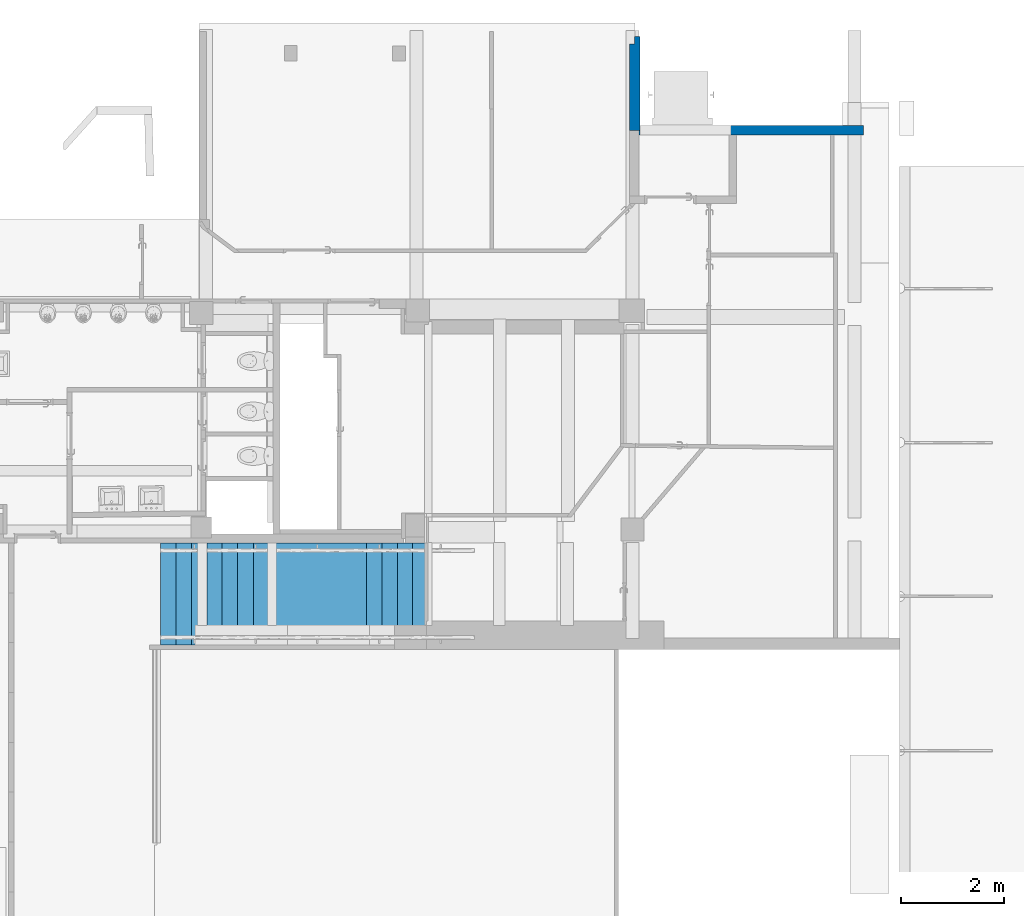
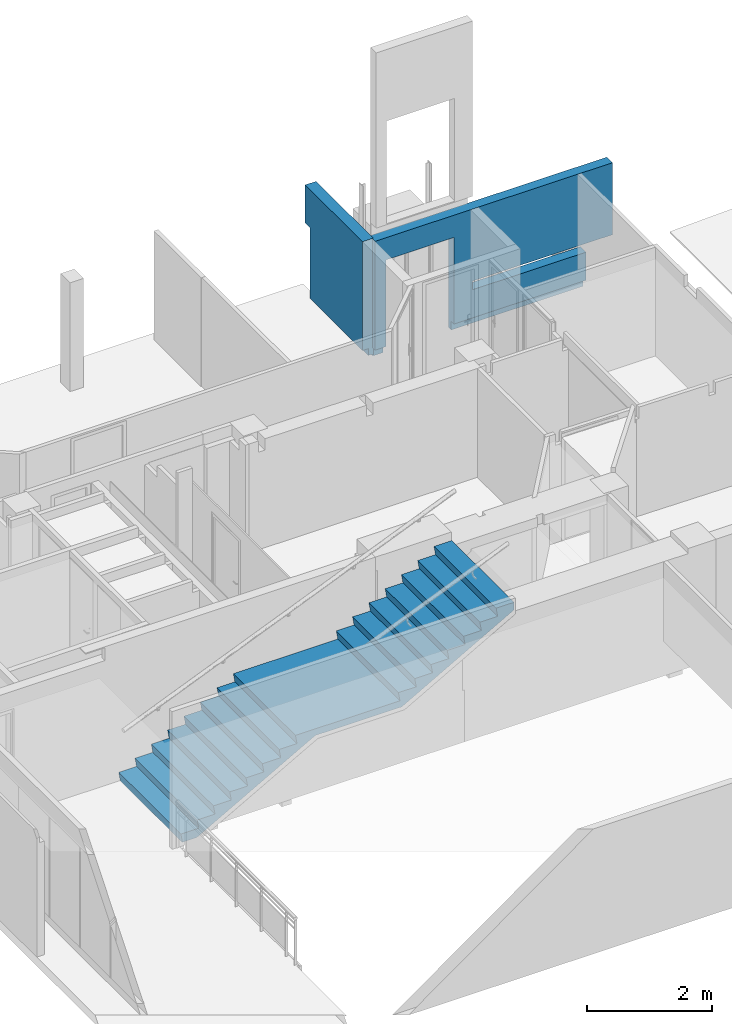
# One storey, part 24 of 32: 2 walls, 1 stair flight, 1 element without a shape of its own.
"""IFC4 building model written with IfcOpenShell, lengths in metres."""

from ifc_helpers import new_model, entity, si_unit, converted_unit, derived_unit, direction, frame, origin, place, context, subcontext, project, spatial, polygons, material, layer, layer_set, constituent, constituent_set, type_object, element, aggregate, save


model = new_model("IFC4")

# Units and contexts
model_context = context("Model", 3, precision=1e-05, world=origin(), true_north=direction((6.12303176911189e-17, 1.0)))
body_context = subcontext(model_context, "Body", "Model", "MODEL_VIEW")
ifc_project = project(units=[si_unit("LENGTHUNIT", "METRE"), si_unit("AREAUNIT", "SQUARE_METRE"), si_unit("VOLUMEUNIT", "CUBIC_METRE"), converted_unit("PLANEANGLEUNIT", "DEGREE", entity("IfcRatioMeasure", 0.0174532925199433), si_unit("PLANEANGLEUNIT", "RADIAN"), dimensions=[0, 0, 0, 0, 0, 0, 0]), si_unit("MASSUNIT", "GRAM", prefix="KILO"), derived_unit("MASSDENSITYUNIT", [(si_unit("MASSUNIT", "GRAM", prefix="KILO"), 1), (si_unit("LENGTHUNIT", "METRE"), -3)]), derived_unit("MOMENTOFINERTIAUNIT", [(si_unit("LENGTHUNIT", "METRE"), 4)]), si_unit("TIMEUNIT", "SECOND"), si_unit("FREQUENCYUNIT", "HERTZ"), si_unit("THERMODYNAMICTEMPERATUREUNIT", "DEGREE_CELSIUS"), derived_unit("THERMALTRANSMITTANCEUNIT", [(si_unit("MASSUNIT", "GRAM", prefix="KILO"), 1), (si_unit("THERMODYNAMICTEMPERATUREUNIT", "KELVIN"), -1), (si_unit("TIMEUNIT", "SECOND"), -3)]), derived_unit("VOLUMETRICFLOWRATEUNIT", [(si_unit("LENGTHUNIT", "METRE"), 3), (si_unit("TIMEUNIT", "SECOND"), -1)]), si_unit("ELECTRICCURRENTUNIT", "AMPERE"), si_unit("ELECTRICVOLTAGEUNIT", "VOLT"), si_unit("POWERUNIT", "WATT"), si_unit("FORCEUNIT", "NEWTON", prefix="KILO"), si_unit("ILLUMINANCEUNIT", "LUX"), si_unit("LUMINOUSFLUXUNIT", "LUMEN"), si_unit("LUMINOUSINTENSITYUNIT", "CANDELA"), derived_unit("USERDEFINED", [(si_unit("MASSUNIT", "GRAM", prefix="KILO"), -1), (si_unit("LENGTHUNIT", "METRE"), -2), (si_unit("TIMEUNIT", "SECOND"), 3), (si_unit("LUMINOUSFLUXUNIT", "LUMEN"), 1)]), derived_unit("LINEARVELOCITYUNIT", [(si_unit("LENGTHUNIT", "METRE"), 1), (si_unit("TIMEUNIT", "SECOND"), -1)]), si_unit("PRESSUREUNIT", "PASCAL"), derived_unit("USERDEFINED", [(si_unit("LENGTHUNIT", "METRE"), -2), (si_unit("MASSUNIT", "GRAM", prefix="KILO"), 1), (si_unit("TIMEUNIT", "SECOND"), -2)]), derived_unit("LINEARFORCEUNIT", [(si_unit("MASSUNIT", "GRAM", prefix="KILO"), 1), (si_unit("LENGTHUNIT", "METRE"), 1), (si_unit("TIMEUNIT", "SECOND"), -2), (si_unit("LENGTHUNIT", "METRE"), -1)]), derived_unit("PLANARFORCEUNIT", [(si_unit("MASSUNIT", "GRAM", prefix="KILO"), 1), (si_unit("LENGTHUNIT", "METRE"), 1), (si_unit("TIMEUNIT", "SECOND"), -2), (si_unit("LENGTHUNIT", "METRE"), -2)])], contexts=[model_context])

# Site, building, storey
site_placement = place(None, origin())
site = spatial("IfcSite", under=ifc_project, at=site_placement, Name="Default", CompositionType="ELEMENT")
building_placement = place(site_placement, origin())
building = spatial("IfcBuilding", under=site, at=building_placement, Name="HOTEL CONSULAIRE BOULOGNE SUR MER", CompositionType="ELEMENT")
storey_placement = place(building_placement, frame((0.0, 0.0, -2.70343668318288)))
storey = spatial("IfcBuildingStorey", under=building, at=storey_placement, Name="SS1", CompositionType="ELEMENT", Elevation=-2.70343668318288)

# Walls
ifc_material_1 = material(Name="Mur par défaut", Category="Divers")
ifc_layer_1 = layer(ifc_material_1, 0.18, Name="Mur par défaut", Category="Divers")
ifc_layer_set_1 = layer_set([ifc_layer_1], Name="Mur de base:Générique - Int.180")
wall_type_1 = type_object("IfcWallType", Name="Mur de base:Générique - Int.180", PredefinedType="NOTDEFINED", material=ifc_layer_set_1)
wall_1_placement = place(storey_placement, frame((11.6611975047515, -12.0607913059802, 0.143990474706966), z_axis=(0.0, 0.0, 1.0), x_axis=(-1.0, 0.0, 0.0)))
element("IfcWall", 1, at=wall_1_placement, inside=storey, type_object=wall_type_1, material=ifc_layer_set_1, Name="Mur de base:Générique - Int.180", ObjectType="Mur de base:Générique - Int.180", PredefinedType="NOTDEFINED", context=body_context, shape_type="Tessellation", body=[
    polygons([(2.91821044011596, 0.0, 0.0), (0.48555381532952, 0.0, 0.0), (0.48555381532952, 0.0, 0.17), (2.91821044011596, 0.0, 0.17), (4.35221723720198, -0.0900000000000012, 0.0), (4.17321723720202, -0.0900000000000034, 0.0), (4.17321723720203, -2.16573425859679e-15, 0.0), (4.35221723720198, 0.0, 0.0), (4.17321723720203, 0.089999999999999, 0.17), (4.37221723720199, 0.089999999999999, 0.17), (4.37221723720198, 0.0, 0.17), (4.35221723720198, 0.0, 0.17), (4.17321723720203, 0.0, 0.17), (4.35221723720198, -0.0900000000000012, 2.28944620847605), (2.57325837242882, -0.0900000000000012, 2.28944620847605), (0.530000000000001, -0.0900000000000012, 2.28944620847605), (1.30514246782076e-17, -0.0900000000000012, 2.28944620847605), (1.30514246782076e-17, -0.0900000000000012, 0.887846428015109), (0.530000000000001, -0.0900000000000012, 0.887846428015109), (2.57325837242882, -0.0900000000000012, 0.887846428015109), (2.57325837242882, -0.0900000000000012, 0.717846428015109), (2.21324170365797, -0.089999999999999, 0.717846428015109), (0.48555381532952, -0.0900000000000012, 0.717846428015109), (0.48555381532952, -0.0900000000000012, 0.0), (2.91821044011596, -0.089999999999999, 0.0), (2.91821044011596, -0.089999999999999, 1.85600952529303), (4.17321723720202, -0.0900000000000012, 1.85600952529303), (4.35221723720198, -0.0900000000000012, 0.150009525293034), (-5.40362080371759e-16, 0.089999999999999, 2.28944620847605), (0.571811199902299, 0.089999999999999, 2.28944620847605), (0.641811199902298, 0.089999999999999, 2.28944620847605), (2.46759355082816, 0.089999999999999, 2.28944620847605), (2.61759355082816, 0.089999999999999, 2.28944620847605), (4.37221723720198, 0.089999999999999, 2.28944620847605), (4.17321723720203, 0.089999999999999, 1.85600952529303), (2.91821044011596, 0.0900000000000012, 1.85600952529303), (2.91821044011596, 0.0900000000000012, 0.17), (2.61759355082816, 0.089999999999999, 0.17), (2.46759355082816, 0.089999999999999, 0.17), (0.641811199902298, 0.089999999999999, 0.17), (0.571811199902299, 0.089999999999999, 0.17), (0.48555381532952, 0.089999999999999, 0.17), (0.48555381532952, 0.089999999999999, 0.717846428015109), (2.57499055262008, 0.089999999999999, 0.717846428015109), (2.57499055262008, 0.089999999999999, 0.887846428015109), (0.410553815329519, 0.089999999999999, 0.887846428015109), (0.335553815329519, 0.089999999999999, 0.887846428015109), (-5.40362080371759e-16, 0.089999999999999, 0.887846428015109), (4.35221723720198, -0.0715972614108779, 2.28944620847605), (4.35221723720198, 0.0, 2.28944620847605), (4.37221723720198, 0.0, 2.28944620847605), (4.35221723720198, 0.0, 0.150009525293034), (4.35221723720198, 0.0, 0.00600952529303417)], [[[3, 4, 1, 2]], [[35, 36, 37, 38, 39, 40, 41, 42, 43, 44, 45, 46, 47, 48, 29, 30, 31, 32, 33, 34, 10, 9]], [[53, 8, 7, 13, 12, 52]], [[5, 6, 7, 8]], [[12, 13, 9, 10, 11]], [[25, 24, 2, 1]], [[26, 36, 35, 27]], [[3, 42, 41, 40, 39, 38, 37, 4]], [[20, 19, 18, 48, 47, 46, 45]], [[22, 23, 24, 25, 26, 27, 6, 5, 28, 14, 15, 16, 17, 18, 19, 20, 21]], [[50, 12, 11, 51]], [[33, 32, 31, 30, 29, 17, 16, 15, 14, 49, 50, 51, 34]], [[22, 21, 44, 43, 23]], [[4, 37, 36, 26, 25, 1]], [[28, 5, 8, 53, 52, 12, 50, 49, 14]], [[51, 11, 10, 34]], [[9, 13, 7, 6, 27, 35]], [[3, 2, 24, 23, 43, 42]], [[29, 48, 18, 17]], [[20, 45, 44, 21]]], closed=True),
])
ifc_layer_2 = layer(ifc_material_1, 0.2, Name="Mur par défaut", Category="Divers")
ifc_layer_set_2 = layer_set([ifc_layer_2], Name="Mur de base:Générique - Int.200")
wall_type_2 = type_object("IfcWallType", Name="Mur de base:Générique - Int.200", PredefinedType="NOTDEFINED", material=ifc_layer_set_2)
wall_2_placement = place(storey_placement, frame((7.20898026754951, -10.23432416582, 0.15), z_axis=(0.0, 0.0, 1.0), x_axis=(0.0, -1.0, 0.0)))
element("IfcWall", 2, at=wall_2_placement, inside=storey, type_object=wall_type_2, material=ifc_layer_set_2, Name="Mur de base:Générique - Int.200", ObjectType="Mur de base:Générique - Int.200", PredefinedType="NOTDEFINED", context=body_context, shape_type="Tessellation", body=[
    polygons([(1.82646714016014, -0.100000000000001, 2.28343668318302), (0.0, -0.1, 2.28343668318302), (0.0, -0.1, 1.54323690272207), (0.150000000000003, -0.1, 1.54323690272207), (0.150000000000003, -0.1, 0.163990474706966), (1.82646714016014, -0.100000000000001, 0.163990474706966), (-2.16573425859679e-15, 0.0999999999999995, 2.28343668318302), (1.73646714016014, 0.0999999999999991, 2.28343668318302), (1.75486987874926, 0.0999999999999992, 2.28343668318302), (1.82646714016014, 0.0999999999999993, 2.28343668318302), (1.82646714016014, 0.0999999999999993, 0.163990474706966), (1.82646714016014, 0.0999999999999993, 0.144), (1.82646714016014, 0.0999999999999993, 0.0), (-2.16573425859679e-15, 0.0999999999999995, 0.0), (1.82646714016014, 0.0814576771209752, 0.0), (-2.16573425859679e-15, 0.0814576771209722, 0.0), (-2.16573425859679e-15, 0.0814576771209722, 0.0299999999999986), (0.0, 0.00999999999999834, 0.0299999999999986), (0.0, 0.00999999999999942, 0.163990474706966), (0.0, -4.6870424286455e-16, 0.163990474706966), (0.0, -4.6870424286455e-16, 1.34699999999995), (0.0, -4.6870424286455e-16, 1.54323690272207), (1.82646714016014, 0.0800000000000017, 2.28343668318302), (1.82646714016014, 0.00999999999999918, 0.163990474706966), (0.150000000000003, -2.21636099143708e-16, 0.163990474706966), (1.82646714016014, 0.00999999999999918, 0.0299999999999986), (1.82646714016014, 0.0814576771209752, 0.0299999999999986), (0.150000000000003, -2.21636099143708e-16, 1.54323690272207)], [[[4, 5, 6, 1, 2, 3]], [[19, 18, 26, 24]], [[15, 27, 17, 16]], [[21, 20, 25, 28, 22]], [[11, 12, 13, 14, 7, 8, 9, 10]], [[15, 16, 14, 13]], [[25, 20, 19, 24, 6, 5]], [[26, 18, 17, 27]], [[3, 22, 28, 4]], [[3, 2, 7, 14, 16, 17, 18, 19, 20, 21, 22]], [[25, 5, 4, 28]], [[9, 8, 7, 2, 1, 23, 10]], [[1, 6, 24, 26, 27, 15, 13, 12, 11, 10, 23]]], closed=True),
])

# Stair, stair flight
stair_type = type_object("IfcStairType", Name="Escalier coulé sur place:Monobloc 4", PredefinedType="STRAIGHT_RUN_STAIR")
stair_placement = place(storey_placement, origin())
stair = element("IfcStair", 3, at=stair_placement, inside=storey, type_object=stair_type, Name="Escalier coulé sur place:Escalier", ObjectType="Escalier coulé sur place:Monobloc 4", PredefinedType="STRAIGHT_RUN_STAIR")
ifc_material_2 = material(Name="carrelage 30x30")
ifc_constituent_1 = constituent(ifc_material_2, Name="carrelage 30x30", Category="Matériaux")
ifc_material_3 = material(Name="Maçonnerie - Béton", Category="Béton")
ifc_constituent_2 = constituent(ifc_material_3, Name="Maçonnerie - Béton", Category="Matériaux")
ifc_constituent_set = constituent_set(constituents=[ifc_constituent_1, ifc_constituent_2], Name="MaterialConstituentSet")
stair_flight_type = type_object("IfcStairFlightType", Name="Volée monobloc:Profondeur de structure 120 mm 2", PredefinedType="NOTDEFINED")
stair_flight_placement = place(stair_placement, frame((-2.01949679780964, -22.0792190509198, 0.0)))
stair_flight = element("IfcStairFlight", 4, at=stair_flight_placement, type_object=stair_flight_type, material=ifc_constituent_set, Name="Escalier coulé sur place:Escalier:400493 Run 1", ObjectType="Volée monobloc:Profondeur de structure 120 mm 2", PredefinedType="NOTDEFINED", context=body_context, shape_type="Tessellation", body=[
    polygons([(3.24860138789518e-15, 1.98430469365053, 0.168964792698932), (5.41433564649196e-16, 3.0320279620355e-14, 0.168964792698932), (0.329972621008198, 3.0320279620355e-14, 0.168964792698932), (0.329972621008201, 1.98430469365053, 0.168964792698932), (0.0300000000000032, 1.98430469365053, 0.158964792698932), (0.329972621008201, 1.98430469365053, 0.158964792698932), (0.329972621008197, 3.0320279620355e-14, 0.158964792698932), (0.0300000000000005, 3.0320279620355e-14, 0.158964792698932), (0.0300000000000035, 1.98430469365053, -0.0120352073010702), (0.0300000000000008, 3.0320279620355e-14, -0.0120352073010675)], [[[3, 4, 1, 2]], [[8, 5, 6, 7]], [[1, 4, 6, 5, 9]], [[3, 2, 10, 8, 7]], [[4, 3, 7, 6]], [[8, 10, 9, 5]], [[10, 2, 1, 9]]], closed=True),
    polygons([(0.2999726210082, 1.98430469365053, 0.337929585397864), (0.299972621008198, 3.46517481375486e-14, 0.337929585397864), (0.629972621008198, 2.59888111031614e-14, 0.337929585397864), (0.629972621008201, 1.98430469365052, 0.337929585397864), (0.329972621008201, 1.98430469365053, 0.327929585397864), (0.629972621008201, 1.98430469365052, 0.327929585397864), (0.629972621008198, 2.59888111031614e-14, 0.327929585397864), (0.329972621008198, 3.0320279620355e-14, 0.327929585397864), (0.329972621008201, 1.98430469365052, 0.156929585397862), (0.329972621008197, 3.0320279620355e-14, 0.156929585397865)], [[[3, 4, 1, 2]], [[8, 5, 6, 7]], [[1, 4, 6, 5, 9]], [[3, 2, 10, 8, 7]], [[4, 3, 7, 6]], [[8, 10, 9, 5]], [[10, 2, 1, 9]]], closed=True),
    polygons([(0.5999726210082, 1.98430469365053, 0.506894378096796), (0.599972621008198, 3.46517481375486e-14, 0.506894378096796), (0.929972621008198, 2.59888111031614e-14, 0.506894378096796), (0.929972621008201, 1.98430469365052, 0.506894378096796), (0.629972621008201, 1.98430469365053, 0.496894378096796), (0.929972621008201, 1.98430469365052, 0.496894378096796), (0.929972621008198, 2.59888111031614e-14, 0.496894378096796), (0.629972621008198, 3.0320279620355e-14, 0.496894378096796), (0.629972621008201, 1.98430469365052, 0.325894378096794), (0.629972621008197, 3.0320279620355e-14, 0.325894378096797)], [[[3, 4, 1, 2]], [[8, 5, 6, 7]], [[1, 4, 6, 5, 9]], [[3, 2, 10, 8, 7]], [[4, 3, 7, 6]], [[8, 10, 9, 5]], [[10, 2, 1, 9]]], closed=True),
    polygons([(0.899972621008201, 1.98430469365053, 0.675859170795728), (0.899972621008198, 3.46517481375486e-14, 0.675859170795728), (1.2299726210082, 2.59888111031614e-14, 0.675859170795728), (1.2299726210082, 1.98430469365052, 0.675859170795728), (0.929972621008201, 1.98430469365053, 0.665859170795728), (1.2299726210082, 1.98430469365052, 0.665859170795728), (1.2299726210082, 2.59888111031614e-14, 0.665859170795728), (0.929972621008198, 3.0320279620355e-14, 0.665859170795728), (0.929972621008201, 1.98430469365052, 0.494859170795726), (0.929972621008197, 3.0320279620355e-14, 0.494859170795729)], [[[3, 4, 1, 2]], [[8, 5, 6, 7]], [[1, 4, 6, 5, 9]], [[3, 2, 10, 8, 7]], [[4, 3, 7, 6]], [[8, 10, 9, 5]], [[10, 2, 1, 9]]], closed=True),
    polygons([(1.1999726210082, 1.98430469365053, 0.84482396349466), (1.1999726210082, 3.0320279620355e-14, 0.84482396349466), (1.5299726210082, 2.16573425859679e-14, 0.84482396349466), (1.5299726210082, 1.98430469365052, 0.84482396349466), (1.2299726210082, 1.98430469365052, 0.83482396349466), (1.5299726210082, 1.98430469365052, 0.83482396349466), (1.5299726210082, 2.16573425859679e-14, 0.83482396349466), (1.2299726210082, 2.59888111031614e-14, 0.83482396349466), (1.2299726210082, 1.98430469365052, 0.663823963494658), (1.2299726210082, 2.59888111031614e-14, 0.663823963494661)], [[[3, 4, 1, 2]], [[8, 5, 6, 7]], [[1, 4, 6, 5, 9]], [[3, 2, 10, 8, 7]], [[4, 3, 7, 6]], [[8, 10, 9, 5]], [[10, 2, 1, 9]]], closed=True),
    polygons([(1.4999726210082, 1.98430469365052, 1.01378875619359), (1.4999726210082, 2.59888111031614e-14, 1.01378875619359), (1.840513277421, 2.16573425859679e-14, 1.01378875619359), (1.840513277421, 1.98430469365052, 1.01378875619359), (1.5299726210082, 1.98430469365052, 1.00378875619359), (1.840513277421, 1.98430469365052, 1.00378875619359), (1.840513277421, 2.16573425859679e-14, 1.00378875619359), (1.5299726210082, 2.59888111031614e-14, 1.00378875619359), (1.5299726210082, 1.98430469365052, 0.83278875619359), (1.5299726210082, 2.59888111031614e-14, 0.832788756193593)], [[[3, 4, 1, 2]], [[8, 5, 6, 7]], [[1, 4, 6, 5, 9]], [[3, 2, 10, 8, 7]], [[4, 3, 7, 6]], [[8, 10, 9, 5]], [[10, 2, 1, 9]]], closed=True),
    polygons([(1.810513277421, 1.98430469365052, 1.18275354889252), (1.810513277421, 2.59888111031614e-14, 1.18275354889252), (2.140513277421, 2.16573425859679e-14, 1.18275354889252), (2.140513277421, 1.98430469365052, 1.18275354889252), (1.840513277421, 1.98430469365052, 1.17275354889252), (2.140513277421, 1.98430469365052, 1.17275354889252), (2.140513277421, 2.16573425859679e-14, 1.17275354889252), (1.840513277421, 2.16573425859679e-14, 1.17275354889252), (1.840513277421, 1.98430469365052, 1.00175354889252), (1.840513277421, 2.16573425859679e-14, 1.00175354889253)], [[[3, 4, 1, 2]], [[8, 5, 6, 7]], [[1, 4, 6, 5, 9]], [[3, 2, 10, 8, 7]], [[4, 3, 7, 6]], [[8, 10, 9, 5]], [[10, 2, 1, 9]]], closed=True),
    polygons([(2.110513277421, 1.98430469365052, 1.35171834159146), (2.110513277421, 2.16573425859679e-14, 1.35171834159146), (4.03691142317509, 1.73258740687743e-14, 1.35171834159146), (4.03691142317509, 1.98430469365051, 1.35171834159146), (2.140513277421, 1.98430469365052, 1.34171834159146), (4.03691142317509, 1.98430469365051, 1.34171834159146), (4.03691142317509, 1.73258740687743e-14, 1.34171834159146), (2.140513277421, 2.16573425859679e-14, 1.34171834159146), (2.140513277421, 1.98430469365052, 1.17071834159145), (2.140513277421, 2.16573425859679e-14, 1.17071834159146)], [[[3, 4, 1, 2]], [[8, 5, 6, 7]], [[1, 4, 6, 5, 9]], [[3, 2, 10, 8, 7]], [[4, 3, 7, 6]], [[8, 10, 9, 5]], [[10, 2, 1, 9]]], closed=True),
    polygons([(4.00691142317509, 1.98430469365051, 1.52068313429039), (4.00691142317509, 2.16573425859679e-14, 1.52068313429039), (4.33691142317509, 1.29944055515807e-14, 1.52068313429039), (4.33691142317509, 1.9843046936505, 1.52068313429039), (4.03691142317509, 1.98430469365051, 1.51068313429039), (4.33691142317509, 1.9843046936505, 1.51068313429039), (4.33691142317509, 1.29944055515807e-14, 1.51068313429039), (4.03691142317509, 1.73258740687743e-14, 1.51068313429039), (4.03691142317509, 1.9843046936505, 1.33968313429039), (4.03691142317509, 1.73258740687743e-14, 1.33968313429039)], [[[3, 4, 1, 2]], [[8, 5, 6, 7]], [[1, 4, 6, 5, 9]], [[3, 2, 10, 8, 7]], [[4, 3, 7, 6]], [[8, 10, 9, 5]], [[10, 2, 1, 9]]], closed=True),
    polygons([(4.30691142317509, 1.98430469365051, 1.68964792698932), (4.30691142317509, 2.16573425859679e-14, 1.68964792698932), (4.63691142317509, 1.29944055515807e-14, 1.68964792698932), (4.63691142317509, 1.9843046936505, 1.68964792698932), (4.33691142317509, 1.98430469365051, 1.67964792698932), (4.63691142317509, 1.9843046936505, 1.67964792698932), (4.63691142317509, 1.29944055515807e-14, 1.67964792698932), (4.33691142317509, 1.73258740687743e-14, 1.67964792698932), (4.33691142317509, 1.9843046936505, 1.50864792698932), (4.33691142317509, 1.73258740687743e-14, 1.50864792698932)], [[[3, 4, 1, 2]], [[8, 5, 6, 7]], [[1, 4, 6, 5, 9]], [[3, 2, 10, 8, 7]], [[4, 3, 7, 6]], [[8, 10, 9, 5]], [[10, 2, 1, 9]]], closed=True),
    polygons([(4.60691142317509, 1.98430469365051, 1.85861271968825), (4.60691142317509, 1.73258740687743e-14, 1.85861271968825), (4.93691142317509, 8.66293703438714e-15, 1.85861271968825), (4.93691142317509, 1.9843046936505, 1.85861271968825), (4.63691142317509, 1.9843046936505, 1.84861271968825), (4.93691142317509, 1.9843046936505, 1.84861271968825), (4.93691142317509, 8.66293703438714e-15, 1.84861271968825), (4.63691142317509, 1.29944055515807e-14, 1.84861271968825), (4.63691142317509, 1.9843046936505, 1.67761271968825), (4.63691142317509, 1.29944055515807e-14, 1.67761271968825)], [[[3, 4, 1, 2]], [[8, 5, 6, 7]], [[1, 4, 6, 5, 9]], [[3, 2, 10, 8, 7]], [[4, 3, 7, 6]], [[8, 10, 9, 5]], [[10, 2, 1, 9]]], closed=True),
    polygons([(4.90691142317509, 1.98430469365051, 2.02757751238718), (4.90691142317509, 1.73258740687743e-14, 2.02757751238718), (5.23691142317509, 8.66293703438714e-15, 2.02757751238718), (5.23691142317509, 1.9843046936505, 2.02757751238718), (4.93691142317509, 1.9843046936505, 2.01757751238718), (5.23691142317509, 1.9843046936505, 2.01757751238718), (5.23691142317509, 8.66293703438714e-15, 2.01757751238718), (4.93691142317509, 1.29944055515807e-14, 2.01757751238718), (4.93691142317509, 1.9843046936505, 1.84657751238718), (4.93691142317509, 1.29944055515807e-14, 1.84657751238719)], [[[3, 4, 1, 2]], [[8, 5, 6, 7]], [[1, 4, 6, 5, 9]], [[3, 2, 10, 8, 7]], [[4, 3, 7, 6]], [[8, 10, 9, 5]], [[10, 2, 1, 9]]], closed=True),
    polygons([(5.20691142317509, 1.98430469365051, 2.19654230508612), (5.20691142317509, 1.73258740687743e-14, 2.19654230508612), (5.53691142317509, 8.66293703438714e-15, 2.19654230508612), (5.53691142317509, 1.9843046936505, 2.19654230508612), (5.23691142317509, 1.9843046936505, 2.18654230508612), (5.53691142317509, 1.9843046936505, 2.18654230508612), (5.53691142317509, 8.66293703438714e-15, 2.18654230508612), (5.23691142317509, 1.29944055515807e-14, 2.18654230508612), (5.23691142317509, 1.9843046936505, 2.01554230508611), (5.23691142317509, 1.29944055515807e-14, 2.01554230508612)], [[[3, 4, 1, 2]], [[8, 5, 6, 7]], [[1, 4, 6, 5, 9]], [[3, 2, 10, 8, 7]], [[4, 3, 7, 6]], [[8, 10, 9, 5]], [[10, 2, 1, 9]]], closed=True),
    polygons([(5.50691142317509, 1.9843046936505, 2.36550709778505), (5.50691142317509, 1.29944055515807e-14, 2.36550709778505), (5.83691142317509, 4.33146851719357e-15, 2.36550709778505), (5.83691142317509, 1.98430469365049, 2.36550709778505), (5.53691142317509, 1.9843046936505, 2.35550709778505), (5.83691142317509, 1.98430469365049, 2.35550709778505), (5.83691142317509, 4.33146851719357e-15, 2.35550709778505), (5.53691142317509, 8.66293703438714e-15, 2.35550709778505), (5.53691142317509, 1.98430469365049, 2.18450709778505), (5.53691142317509, 8.66293703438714e-15, 2.18450709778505)], [[[3, 4, 1, 2]], [[8, 5, 6, 7]], [[1, 4, 6, 5, 9]], [[3, 2, 10, 8, 7]], [[4, 3, 7, 6]], [[8, 10, 9, 5]], [[10, 2, 1, 9]]], closed=True),
    polygons([(5.80691142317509, 1.9843046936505, 2.53447189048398), (5.80691142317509, 1.29944055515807e-14, 2.53447189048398), (6.13691142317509, 4.33146851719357e-15, 2.53447189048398), (6.13691142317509, 1.98430469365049, 2.53447189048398), (5.83691142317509, 1.9843046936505, 2.52447189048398), (6.13691142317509, 1.98430469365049, 2.52447189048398), (6.13691142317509, 4.33146851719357e-15, 2.52447189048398), (5.83691142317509, 8.66293703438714e-15, 2.52447189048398), (5.83691142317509, 1.98430469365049, 2.35347189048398), (5.83691142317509, 8.66293703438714e-15, 2.35347189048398)], [[[3, 4, 1, 2]], [[8, 5, 6, 7]], [[1, 4, 6, 5, 9]], [[3, 2, 10, 8, 7]], [[4, 3, 7, 6]], [[8, 10, 9, 5]], [[10, 2, 1, 9]]], closed=True),
    polygons([(0.329972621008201, 1.98430469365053, 0.158964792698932), (0.0300000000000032, 1.98430469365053, 0.158964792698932), (0.0300000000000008, 3.0320279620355e-14, 0.158964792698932), (0.329972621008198, 3.0320279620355e-14, 0.158964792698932), (0.329972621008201, 1.98430469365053, 0.0205488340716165), (0.293305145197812, 1.98430469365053, 0.0), (0.0300000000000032, 1.98430469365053, 0.0), (0.0300000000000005, 3.0320279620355e-14, 0.0), (0.293305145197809, 3.0320279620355e-14, -5.41433564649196e-16), (0.329972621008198, 3.0320279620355e-14, 0.0205488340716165), (0.629972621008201, 1.98430469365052, 0.327929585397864), (0.329972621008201, 1.98430469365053, 0.327929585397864), (0.329972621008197, 3.0320279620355e-14, 0.327929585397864), (0.629972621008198, 2.59888111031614e-14, 0.327929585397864), (0.629972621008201, 1.98430469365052, 0.188671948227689), (0.629972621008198, 3.0320279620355e-14, 0.188671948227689), (0.929972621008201, 1.98430469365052, 0.496894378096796), (0.629972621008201, 1.98430469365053, 0.496894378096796), (0.629972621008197, 3.0320279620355e-14, 0.496894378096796), (0.929972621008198, 2.59888111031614e-14, 0.496894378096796), (0.929972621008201, 1.98430469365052, 0.356795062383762), (0.929972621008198, 3.0320279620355e-14, 0.356795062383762), (1.2299726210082, 1.98430469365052, 0.665859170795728), (0.929972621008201, 1.98430469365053, 0.665859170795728), (0.929972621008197, 3.0320279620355e-14, 0.665859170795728), (1.2299726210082, 2.59888111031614e-14, 0.665859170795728), (1.2299726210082, 1.98430469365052, 0.524918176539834), (1.2299726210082, 3.0320279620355e-14, 0.524918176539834), (1.5299726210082, 1.98430469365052, 0.83482396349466), (1.2299726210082, 1.98430469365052, 0.83482396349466), (1.2299726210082, 2.59888111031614e-14, 0.83482396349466), (1.5299726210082, 2.16573425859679e-14, 0.83482396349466), (1.5299726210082, 1.98430469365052, 0.693041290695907), (1.5299726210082, 2.59888111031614e-14, 0.693041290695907), (1.840513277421, 1.98430469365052, 1.00378875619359), (1.5299726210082, 1.98430469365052, 1.00378875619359), (1.5299726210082, 2.59888111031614e-14, 1.00378875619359), (1.840513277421, 2.16573425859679e-14, 1.00378875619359), (1.840513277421, 1.98430469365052, 0.86707149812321), (1.840513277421, 2.59888111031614e-14, 0.86707149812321), (2.140513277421, 1.98430469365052, 1.17275354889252), (1.840513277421, 1.98430469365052, 1.17275354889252), (1.840513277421, 2.16573425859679e-14, 1.17275354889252), (2.140513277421, 2.16573425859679e-14, 1.17275354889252), (2.140513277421, 1.98430469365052, 1.03519461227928), (2.140513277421, 2.16573425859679e-14, 1.03519461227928), (2.140513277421, 1.98430469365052, 1.34171834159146), (2.140513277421, 2.16573425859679e-14, 1.34171834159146), (2.47334745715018, 2.16573425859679e-14, 1.34171834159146), (4.03691142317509, 1.73258740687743e-14, 1.34171834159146), (4.03691142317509, 1.98430469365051, 1.34171834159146), (2.47334745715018, 1.98430469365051, 1.34171834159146), (4.03691142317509, 1.98430469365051, 1.22171834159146), (2.47334745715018, 1.98430469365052, 1.22171834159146), (2.47334745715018, 2.16573425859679e-14, 1.22171834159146), (4.03691142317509, 1.73258740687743e-14, 1.22171834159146), (4.03691142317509, 1.98430469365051, 1.51068313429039), (4.03691142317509, 1.73258740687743e-14, 1.51068313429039), (4.06838041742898, 1.73258740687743e-14, 1.51068313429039), (4.33691142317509, 1.29944055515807e-14, 1.51068313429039), (4.33691142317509, 1.9843046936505, 1.51068313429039), (4.06838041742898, 1.9843046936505, 1.51068313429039), (4.33691142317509, 1.9843046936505, 1.37295929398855), (4.06838041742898, 1.9843046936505, 1.22171834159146), (4.06838041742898, 1.73258740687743e-14, 1.22171834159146), (4.33691142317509, 1.73258740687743e-14, 1.37295929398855), (4.63691142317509, 1.9843046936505, 1.67964792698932), (4.33691142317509, 1.98430469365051, 1.67964792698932), (4.33691142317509, 1.73258740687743e-14, 1.67964792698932), (4.63691142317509, 1.29944055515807e-14, 1.67964792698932), (4.63691142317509, 1.9843046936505, 1.54192408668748), (4.63691142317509, 1.73258740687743e-14, 1.54192408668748), (4.93691142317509, 1.9843046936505, 1.84861271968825), (4.63691142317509, 1.9843046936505, 1.84861271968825), (4.63691142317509, 1.29944055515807e-14, 1.84861271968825), (4.93691142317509, 8.66293703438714e-15, 1.84861271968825), (4.93691142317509, 1.9843046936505, 1.71088887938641), (4.93691142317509, 1.29944055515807e-14, 1.71088887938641), (5.23691142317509, 1.9843046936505, 2.01757751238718), (4.93691142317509, 1.9843046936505, 2.01757751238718), (4.93691142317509, 1.29944055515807e-14, 2.01757751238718), (5.23691142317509, 8.66293703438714e-15, 2.01757751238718), (5.23691142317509, 1.9843046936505, 1.87985367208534), (5.23691142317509, 1.29944055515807e-14, 1.87985367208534), (5.53691142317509, 1.9843046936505, 2.18654230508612), (5.23691142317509, 1.9843046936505, 2.18654230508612), (5.23691142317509, 1.29944055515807e-14, 2.18654230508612), (5.53691142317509, 8.66293703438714e-15, 2.18654230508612), (5.53691142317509, 1.9843046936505, 2.04881846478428), (5.53691142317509, 1.29944055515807e-14, 2.04881846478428), (5.83691142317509, 1.98430469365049, 2.35550709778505), (5.53691142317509, 1.9843046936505, 2.35550709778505), (5.53691142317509, 8.66293703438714e-15, 2.35550709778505), (5.83691142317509, 4.33146851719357e-15, 2.35550709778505), (5.83691142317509, 1.98430469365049, 2.21778325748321), (5.83691142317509, 8.66293703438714e-15, 2.21778325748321), (6.13691142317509, 1.98430469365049, 2.52447189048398), (5.83691142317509, 1.9843046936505, 2.52447189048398), (5.83691142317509, 8.66293703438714e-15, 2.52447189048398), (6.13691142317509, 4.33146851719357e-15, 2.52447189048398), (6.13691142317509, 1.98430469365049, 2.38674805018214), (6.13691142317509, 8.66293703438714e-15, 2.38674805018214)], [[[4, 1, 2, 3]], [[14, 11, 12, 13]], [[20, 17, 18, 19]], [[26, 23, 24, 25]], [[32, 29, 30, 31]], [[38, 35, 36, 37]], [[44, 41, 42, 43]], [[50, 51, 52, 47, 48, 49]], [[60, 61, 62, 57, 58, 59]], [[70, 67, 68, 69]], [[76, 73, 74, 75]], [[82, 79, 80, 81]], [[88, 85, 86, 87]], [[94, 91, 92, 93]], [[100, 97, 98, 99]], [[2, 1, 12, 11, 18, 17, 24, 23, 30, 29, 36, 35, 42, 41, 47, 52, 51, 57, 62, 61, 68, 67, 74, 73, 80, 79, 86, 85, 92, 91, 98, 97, 101, 95, 89, 83, 77, 71, 63, 64, 53, 54, 45, 39, 33, 27, 21, 15, 5, 6, 7]], [[3, 2, 7, 8]], [[13, 12, 1, 4]], [[19, 18, 11, 14]], [[25, 24, 17, 20]], [[31, 30, 23, 26]], [[37, 36, 29, 32]], [[43, 42, 35, 38]], [[48, 47, 41, 44]], [[58, 57, 51, 50]], [[69, 68, 61, 60]], [[75, 74, 67, 70]], [[81, 80, 73, 76]], [[87, 86, 79, 82]], [[93, 92, 85, 88]], [[99, 98, 91, 94]], [[4, 3, 8, 9, 10, 16, 22, 28, 34, 40, 46, 55, 56, 65, 66, 72, 78, 84, 90, 96, 102, 100, 99, 94, 93, 88, 87, 82, 81, 76, 75, 70, 69, 60, 59, 58, 50, 49, 48, 44, 43, 38, 37, 32, 31, 26, 25, 20, 19, 14, 13]], [[97, 100, 102, 101]], [[8, 7, 6, 9]], [[55, 54, 53, 64, 65, 56]], [[10, 9, 6, 5, 15, 21, 27, 33, 39, 45, 54, 55, 46, 40, 34, 28, 22, 16]], [[66, 65, 64, 63, 71, 77, 83, 89, 95, 101, 102, 96, 90, 84, 78, 72]]], closed=True),
])
aggregate(stair, [stair_flight])

save(model, "model.ifc")
